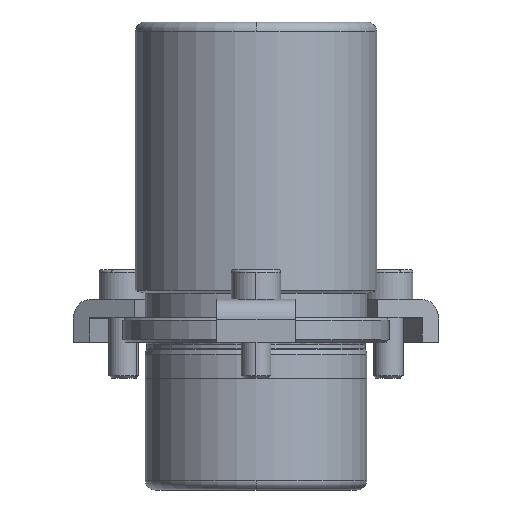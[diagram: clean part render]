
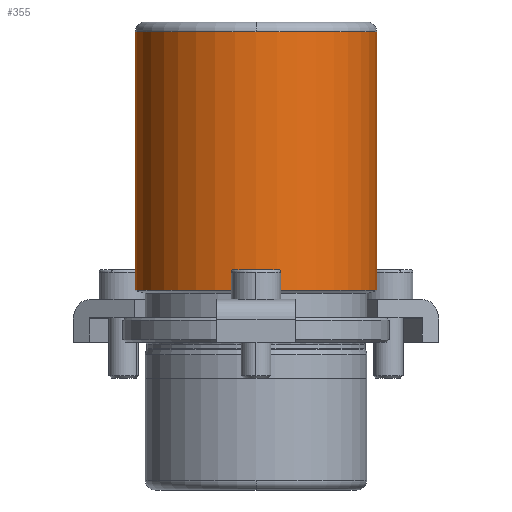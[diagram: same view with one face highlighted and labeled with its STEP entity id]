
A CAD part, front view. The second image highlights one B-rep face of the part: STEP entity #355.
In plain terms, the highlighted cylindrical face has radius 24.5 mm (diameter 49 mm), a partial arc.
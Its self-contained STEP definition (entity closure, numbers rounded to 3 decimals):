
#269=CARTESIAN_POINT('',(0.0,-24.5,63.));
#270=VERTEX_POINT('',#269);
#296=CARTESIAN_POINT('',(-24.5,0.,63.0));
#297=VERTEX_POINT('',#296);
#305=CARTESIAN_POINT('',(0.0,0.,63.0));
#306=DIRECTION('',(0.0,0.0,1.0));
#307=DIRECTION('',(1.0,0.0,0.0));
#308=AXIS2_PLACEMENT_3D('',#305,#306,#307);
#309=CIRCLE('',#308,24.5);
#310=EDGE_CURVE('',#297,#270,#309,.T.);
#315=CARTESIAN_POINT('',(0.0,0.,36.75));
#316=DIRECTION('',(0.0,0.,1.0));
#317=DIRECTION('',(1.0,0.0,0.0));
#318=AXIS2_PLACEMENT_3D('',#315,#316,#317);
#319=CYLINDRICAL_SURFACE('',#318,24.5);
#320=CARTESIAN_POINT('',(24.5,0.,63.0));
#321=VERTEX_POINT('',#320);
#322=CARTESIAN_POINT('',(24.5,0.,10.5));
#323=VERTEX_POINT('',#322);
#324=CARTESIAN_POINT('',(24.5,0.,63.0));
#325=DIRECTION('',(0.0,0.0,-1.0));
#326=VECTOR('',#325,52.5);
#327=LINE('',#324,#326);
#328=EDGE_CURVE('',#321,#323,#327,.T.);
#329=ORIENTED_EDGE('',*,*,#328,.F.);
#330=CARTESIAN_POINT('',(0.0,0.,63.0));
#331=DIRECTION('',(0.0,0.0,1.0));
#332=DIRECTION('',(1.0,0.0,0.0));
#333=AXIS2_PLACEMENT_3D('',#330,#331,#332);
#334=CIRCLE('',#333,24.5);
#335=EDGE_CURVE('',#270,#321,#334,.T.);
#336=ORIENTED_EDGE('',*,*,#335,.F.);
#337=ORIENTED_EDGE('',*,*,#310,.F.);
#338=CARTESIAN_POINT('',(-24.5,0.,10.5));
#339=VERTEX_POINT('',#338);
#340=CARTESIAN_POINT('',(-24.5,0.,63.0));
#341=DIRECTION('',(0.0,0.0,-1.0));
#342=VECTOR('',#341,52.5);
#343=LINE('',#340,#342);
#344=EDGE_CURVE('',#297,#339,#343,.T.);
#345=ORIENTED_EDGE('',*,*,#344,.T.);
#346=CARTESIAN_POINT('',(0.0,0.,10.5));
#347=DIRECTION('',(0.0,0.0,1.0));
#348=DIRECTION('',(1.0,0.0,0.0));
#349=AXIS2_PLACEMENT_3D('',#346,#347,#348);
#350=CIRCLE('',#349,24.5);
#351=EDGE_CURVE('',#339,#323,#350,.T.);
#352=ORIENTED_EDGE('',*,*,#351,.T.);
#353=EDGE_LOOP('',(#329,#336,#337,#345,#352));
#354=FACE_OUTER_BOUND('',#353,.T.);
#355=ADVANCED_FACE('',(#354),#319,.T.);
